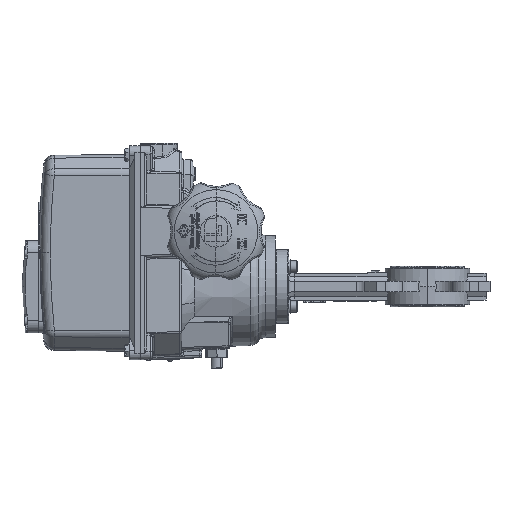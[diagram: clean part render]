
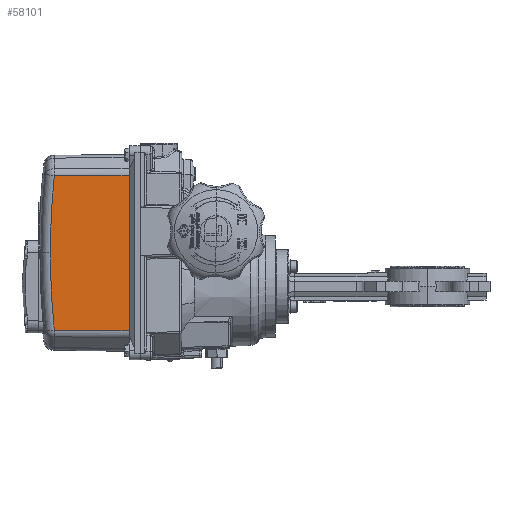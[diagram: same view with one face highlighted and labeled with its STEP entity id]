
A CAD part, left-side view. The second image highlights one B-rep face of the part: STEP entity #58101.
In plain terms, the highlighted planar face has unit normal (-1, 0.013, 0).
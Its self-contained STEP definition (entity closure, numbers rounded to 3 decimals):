
#1643 = LINE ( 'NONE', #66101, #120452 ) ;
#2736 = CARTESIAN_POINT ( 'NONE',  ( -65.589, -354.385, 29.913 ) ) ;
#2769 = CARTESIAN_POINT ( 'NONE',  ( -57.411, 254.826, 98.912 ) ) ;
#3807 = VERTEX_POINT ( 'NONE', #48995 ) ;
#6805 = DIRECTION ( 'NONE',  ( -1., 0.013, 0. ) ) ;
#8436 = DIRECTION ( 'NONE',  ( 0., 0., 1. ) ) ;
#9434 = VERTEX_POINT ( 'NONE', #30274 ) ;
#12348 = DIRECTION ( 'NONE',  ( -1., 0.013, 0. ) ) ;
#13756 = AXIS2_PLACEMENT_3D ( 'NONE', #2736, #12348, #22051 ) ;
#18754 = LINE ( 'NONE', #101211, #83474 ) ;
#22051 = DIRECTION ( 'NONE',  ( 0.013, 1., 0. ) ) ;
#24379 = EDGE_CURVE ( 'NONE', #40624, #3807, #18754, .T. ) ;
#24867 = EDGE_CURVE ( 'NONE', #86433, #105198, #114959, .T. ) ;
#25028 = DIRECTION ( 'NONE',  ( 0.013, 1., 0. ) ) ;
#29765 = ORIENTED_EDGE ( 'NONE', *, *, #104106, .T. ) ;
#30274 = CARTESIAN_POINT ( 'NONE',  ( -57.279, 264.7, 98.858 ) ) ;
#40624 = VERTEX_POINT ( 'NONE', #85140 ) ;
#43291 = CARTESIAN_POINT ( 'NONE',  ( -56.342, 334.473, 29.913 ) ) ;
#45853 = CIRCLE ( 'NONE', #88524, 688.92 ) ;
#46319 = CARTESIAN_POINT ( 'NONE',  ( -57.412, 254.734, -41.573 ) ) ;
#47636 = VECTOR ( 'NONE', #70076, 1000. ) ;
#48995 = CARTESIAN_POINT ( 'NONE',  ( -57.279, 264.7, -39.032 ) ) ;
#51886 = AXIS2_PLACEMENT_3D ( 'NONE', #46319, #6805, #74105 ) ;
#53675 = DIRECTION ( 'NONE',  ( -0.013, -1., -0.006 ) ) ;
#58101 = ADVANCED_FACE ( 'NONE', ( #111173 ), #75323, .T. ) ;
#58688 = ORIENTED_EDGE ( 'NONE', *, *, #86945, .T. ) ;
#59701 = LINE ( 'NONE', #2769, #47636 ) ;
#59801 = ORIENTED_EDGE ( 'NONE', *, *, #24379, .T. ) ;
#66101 = CARTESIAN_POINT ( 'NONE',  ( -57.279, 264.7, -41.573 ) ) ;
#68662 = ORIENTED_EDGE ( 'NONE', *, *, #24867, .T. ) ;
#69576 = CARTESIAN_POINT ( 'NONE',  ( -56.388, 331.051, 98.489 ) ) ;
#70076 = DIRECTION ( 'NONE',  ( 0.013, 1., -0.006 ) ) ;
#74105 = DIRECTION ( 'NONE',  ( 0.013, 1., 0. ) ) ;
#75323 = PLANE ( 'NONE',  #51886 ) ;
#80438 = ORIENTED_EDGE ( 'NONE', *, *, #96147, .T. ) ;
#83474 = VECTOR ( 'NONE', #53675, 1000. ) ;
#83930 = DIRECTION ( 'NONE',  ( -1., 0.013, 0. ) ) ;
#85140 = CARTESIAN_POINT ( 'NONE',  ( -56.388, 331.051, -38.663 ) ) ;
#86433 = VERTEX_POINT ( 'NONE', #69576 ) ;
#86945 = EDGE_CURVE ( 'NONE', #105198, #40624, #45853, .T. ) ;
#88524 = AXIS2_PLACEMENT_3D ( 'NONE', #103226, #83930, #25028 ) ;
#95823 = EDGE_LOOP ( 'NONE', ( #59801, #29765, #80438, #68662, #58688 ) ) ;
#96147 = EDGE_CURVE ( 'NONE', #9434, #86433, #59701, .T. ) ;
#101211 = CARTESIAN_POINT ( 'NONE',  ( -57.413, 254.72, -39.088 ) ) ;
#103226 = CARTESIAN_POINT ( 'NONE',  ( -65.589, -354.385, 29.913 ) ) ;
#104106 = EDGE_CURVE ( 'NONE', #3807, #9434, #1643, .T. ) ;
#105198 = VERTEX_POINT ( 'NONE', #43291 ) ;
#111173 = FACE_OUTER_BOUND ( 'NONE', #95823, .T. ) ;
#114959 = CIRCLE ( 'NONE', #13756, 688.92 ) ;
#120452 = VECTOR ( 'NONE', #8436, 1000. ) ;
